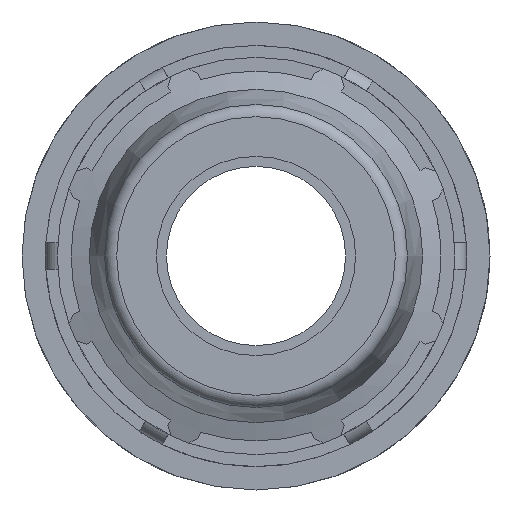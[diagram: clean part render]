
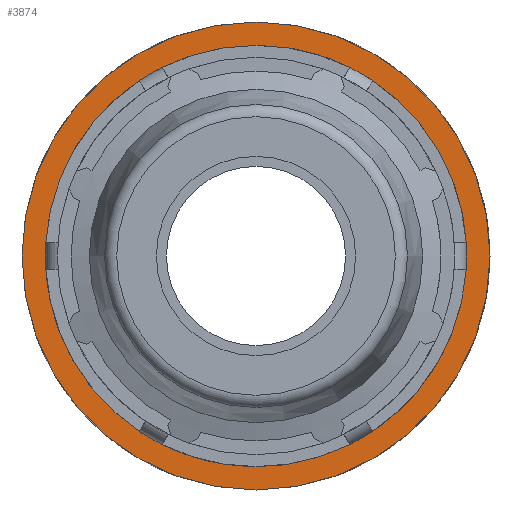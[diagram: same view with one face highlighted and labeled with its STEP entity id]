
A CAD part, left-side view. The second image highlights one B-rep face of the part: STEP entity #3874.
In plain terms, the highlighted planar face has unit normal (-1, 0, 0).
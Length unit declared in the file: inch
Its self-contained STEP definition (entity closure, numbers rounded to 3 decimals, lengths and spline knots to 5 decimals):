
#48=FACE_BOUND('',#530,.T.);
#334=FACE_OUTER_BOUND('',#529,.T.);
#529=EDGE_LOOP('',(#3168,#3169));
#530=EDGE_LOOP('',(#3170,#3171));
#607=CIRCLE('',#4005,2.225);
#608=CIRCLE('',#4006,2.225);
#734=CIRCLE('',#4251,1.78);
#735=CIRCLE('',#4252,1.78);
#1472=VERTEX_POINT('',#5677);
#1473=VERTEX_POINT('',#5679);
#1700=VERTEX_POINT('',#6688);
#1701=VERTEX_POINT('',#6689);
#1878=EDGE_CURVE('',#1472,#1473,#607,.T.);
#1879=EDGE_CURVE('',#1473,#1472,#608,.T.);
#2233=EDGE_CURVE('',#1700,#1701,#734,.T.);
#2234=EDGE_CURVE('',#1701,#1700,#735,.T.);
#3168=ORIENTED_EDGE('',*,*,#1879,.F.);
#3169=ORIENTED_EDGE('',*,*,#1878,.F.);
#3170=ORIENTED_EDGE('',*,*,#2233,.T.);
#3171=ORIENTED_EDGE('',*,*,#2234,.T.);
#3509=PLANE('',#4250);
#3874=ADVANCED_FACE('',(#334,#48),#3509,.T.);
#4005=AXIS2_PLACEMENT_3D('',#5680,#4559,#4560);
#4006=AXIS2_PLACEMENT_3D('',#5681,#4561,#4562);
#4250=AXIS2_PLACEMENT_3D('',#6687,#5213,#5214);
#4251=AXIS2_PLACEMENT_3D('',#6690,#5215,#5216);
#4252=AXIS2_PLACEMENT_3D('',#6691,#5217,#5218);
#4559=DIRECTION('center_axis',(1.,0.,0.));
#4560=DIRECTION('ref_axis',(0.,0.,-1.));
#4561=DIRECTION('center_axis',(1.,0.,0.));
#4562=DIRECTION('ref_axis',(0.,0.,-1.));
#5213=DIRECTION('center_axis',(-1.,0.,0.));
#5214=DIRECTION('ref_axis',(0.,0.,1.));
#5215=DIRECTION('center_axis',(1.,0.,0.));
#5216=DIRECTION('ref_axis',(0.,0.,-1.));
#5217=DIRECTION('center_axis',(1.,0.,0.));
#5218=DIRECTION('ref_axis',(0.,0.,-1.));
#5677=CARTESIAN_POINT('',(2.58634,-2.225,0.));
#5679=CARTESIAN_POINT('',(2.58634,0.,2.225));
#5680=CARTESIAN_POINT('Origin',(2.58634,0.,0.));
#5681=CARTESIAN_POINT('Origin',(2.58634,0.,0.));
#6687=CARTESIAN_POINT('Origin',(2.58634,2.225,0.));
#6688=CARTESIAN_POINT('',(2.58634,1.78,0.));
#6689=CARTESIAN_POINT('',(2.58634,-1.78,0.));
#6690=CARTESIAN_POINT('Origin',(2.58634,0.,0.));
#6691=CARTESIAN_POINT('Origin',(2.58634,0.,0.));
